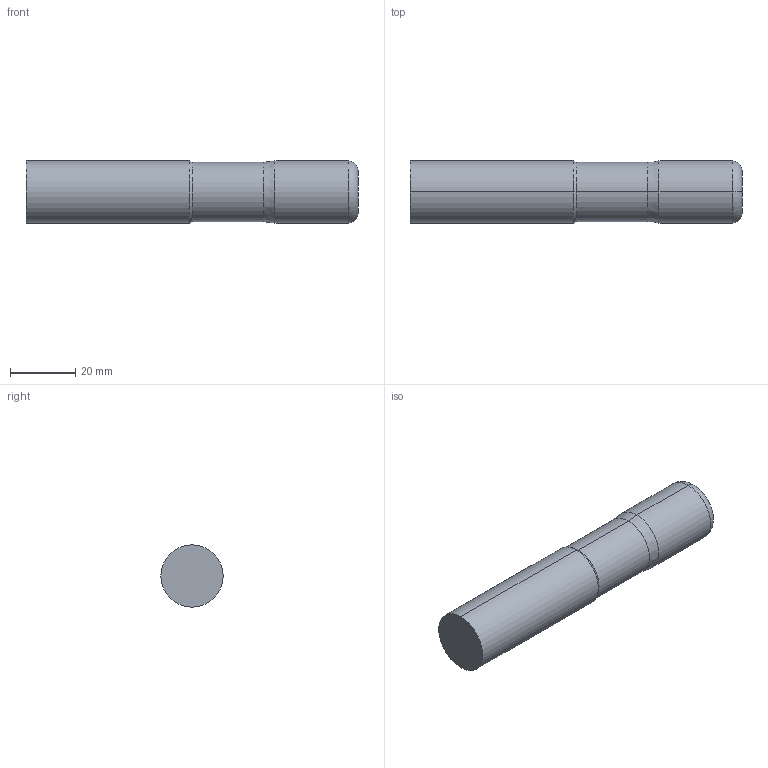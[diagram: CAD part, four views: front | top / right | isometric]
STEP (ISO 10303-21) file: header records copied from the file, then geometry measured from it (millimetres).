
FILE_DESCRIPTION (( 'STEP AP214' ), '1' );
FILE_NAME ('SSIRN70750-120.STEP', '2025-05-30T14:32:05', ( '' ), ( '' ), 'SwSTEP 2.0', 'SolidWorks 2023', '' );
FILE_SCHEMA (( 'AUTOMOTIVE_DESIGN' ));
Length unit declared in the file: inch
Products named in the file (3): SSIRN70750-120; SSI7 Cut Only_SSIRN70750-120; SSI7 Shank Only_SSIRN70750-120
Assembly tree (2 placements, depth 2):
  SSIRN70750-120
    SSI7 Cut Only_SSIRN70750-120
    SSI7 Shank Only_SSIRN70750-120
Bounding box: 101.6 x 19.05 x 19.05 mm (x, y, z)
Volume: 28224.2 mm3; surface area: 7079.7 mm2
Topology: 2 solids, 2 shells, 16 faces, 28 edges, 16 vertices
Faces by surface type: cylinder 6, plane 4, cone 4, torus 2
Entity records: 484 total; most frequent: DIRECTION 88, CARTESIAN_POINT 65, ORIENTED_EDGE 56, AXIS2_PLACEMENT_3D 39, EDGE_CURVE 28, CIRCLE 18, VERTEX_POINT 16, ADVANCED_FACE 16
